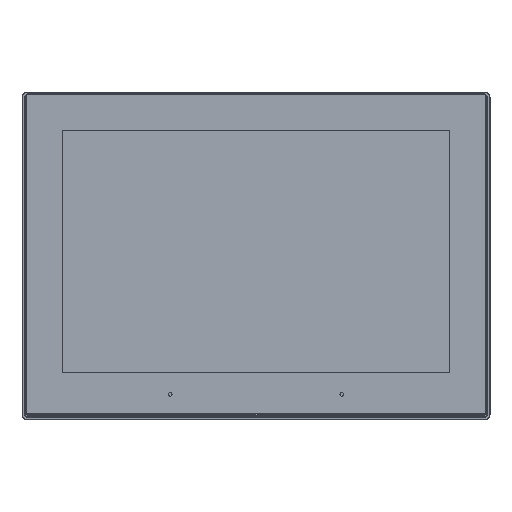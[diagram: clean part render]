
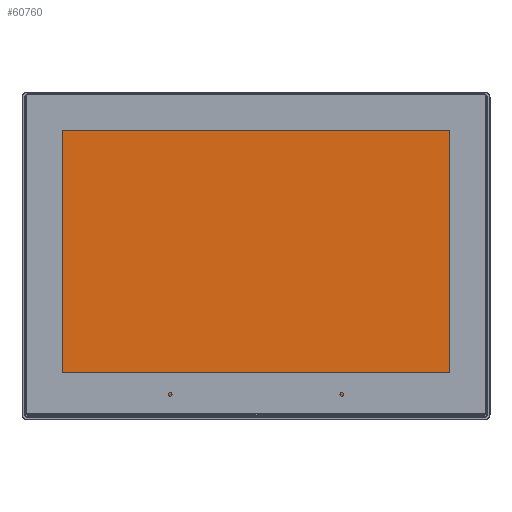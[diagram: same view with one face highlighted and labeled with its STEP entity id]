
A CAD part, top view. The second image highlights one B-rep face of the part: STEP entity #60760.
In plain terms, the highlighted planar face has unit normal (0, 0, 1) as drawn and (0, 0, -1) by its records, which use the part's own axes.
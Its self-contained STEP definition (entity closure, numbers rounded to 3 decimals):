
#4023=CIRCLE('',#87125,1.3);
#4024=CIRCLE('',#87126,1.3);
#4025=CIRCLE('',#87127,1.3);
#4026=CIRCLE('',#87128,1.3);
#9246=LINE('',#139934,#14282);
#9247=LINE('',#139939,#14283);
#9248=LINE('',#139943,#14284);
#9249=LINE('',#139947,#14285);
#14282=VECTOR('',#103410,1000.);
#14283=VECTOR('',#103413,1000.);
#14284=VECTOR('',#103416,1000.);
#14285=VECTOR('',#103419,1000.);
#16063=PLANE('',#87124);
#33388=ORIENTED_EDGE('',*,*,#42208,.T.);
#33389=ORIENTED_EDGE('',*,*,#42209,.T.);
#33390=ORIENTED_EDGE('',*,*,#42210,.T.);
#33391=ORIENTED_EDGE('',*,*,#42211,.T.);
#33392=ORIENTED_EDGE('',*,*,#42212,.T.);
#33393=ORIENTED_EDGE('',*,*,#42213,.T.);
#33394=ORIENTED_EDGE('',*,*,#42214,.T.);
#33395=ORIENTED_EDGE('',*,*,#42215,.T.);
#42208=EDGE_CURVE('',#47854,#47855,#9246,.T.);
#42209=EDGE_CURVE('',#47855,#47856,#4023,.T.);
#42210=EDGE_CURVE('',#47856,#47857,#9247,.T.);
#42211=EDGE_CURVE('',#47857,#47858,#4024,.T.);
#42212=EDGE_CURVE('',#47858,#47859,#9248,.T.);
#42213=EDGE_CURVE('',#47859,#47860,#4025,.T.);
#42214=EDGE_CURVE('',#47860,#47861,#9249,.T.);
#42215=EDGE_CURVE('',#47861,#47854,#4026,.T.);
#47854=VERTEX_POINT('',#139935);
#47855=VERTEX_POINT('',#139936);
#47856=VERTEX_POINT('',#139938);
#47857=VERTEX_POINT('',#139940);
#47858=VERTEX_POINT('',#139942);
#47859=VERTEX_POINT('',#139944);
#47860=VERTEX_POINT('',#139946);
#47861=VERTEX_POINT('',#139948);
#53108=EDGE_LOOP('',(#33388,#33389,#33390,#33391,#33392,#33393,#33394,#33395));
#57088=FACE_BOUND('',#53108,.T.);
#60760=ADVANCED_FACE('',(#57088),#16063,.T.);
#87124=AXIS2_PLACEMENT_3D('',#139933,#103408,#103409);
#87125=AXIS2_PLACEMENT_3D('',#139937,#103411,#103412);
#87126=AXIS2_PLACEMENT_3D('',#139941,#103414,#103415);
#87127=AXIS2_PLACEMENT_3D('',#139945,#103417,#103418);
#87128=AXIS2_PLACEMENT_3D('',#139949,#103420,#103421);
#103408=DIRECTION('',(0.,0.,-1.));
#103409=DIRECTION('',(0.,1.,0.));
#103410=DIRECTION('',(1.,0.,0.));
#103411=DIRECTION('',(0.,0.,-1.));
#103412=DIRECTION('',(-1.,0.,0.));
#103413=DIRECTION('',(0.,-1.,0.));
#103414=DIRECTION('',(0.,0.,-1.));
#103415=DIRECTION('',(-1.,0.,0.));
#103416=DIRECTION('',(-1.,0.,0.));
#103417=DIRECTION('',(0.,0.,-1.));
#103418=DIRECTION('',(-1.,0.,0.));
#103419=DIRECTION('',(0.,1.,0.));
#103420=DIRECTION('',(0.,0.,-1.));
#103421=DIRECTION('',(-1.,0.,0.));
#139933=CARTESIAN_POINT('',(-95.45,62.4,0.));
#139934=CARTESIAN_POINT('',(-95.45,108.075,0.));
#139935=CARTESIAN_POINT('',(-154.11,108.075,0.));
#139936=CARTESIAN_POINT('',(154.11,108.075,0.));
#139937=CARTESIAN_POINT('',(154.11,106.775,0.));
#139938=CARTESIAN_POINT('',(155.41,106.775,0.));
#139939=CARTESIAN_POINT('',(155.41,62.4,0.));
#139940=CARTESIAN_POINT('',(155.41,-106.775,0.));
#139941=CARTESIAN_POINT('',(154.11,-106.775,0.));
#139942=CARTESIAN_POINT('',(154.11,-108.075,0.));
#139943=CARTESIAN_POINT('',(-95.45,-108.075,0.));
#139944=CARTESIAN_POINT('',(-154.11,-108.075,0.));
#139945=CARTESIAN_POINT('',(-154.11,-106.775,0.));
#139946=CARTESIAN_POINT('',(-155.41,-106.775,0.));
#139947=CARTESIAN_POINT('',(-155.41,62.4,0.));
#139948=CARTESIAN_POINT('',(-155.41,106.775,0.));
#139949=CARTESIAN_POINT('',(-154.11,106.775,0.));
